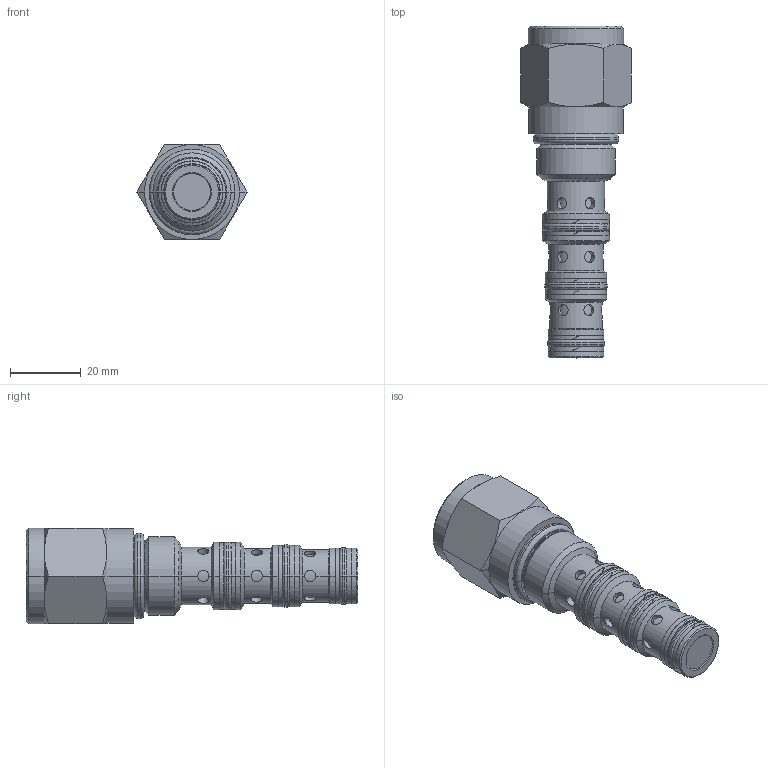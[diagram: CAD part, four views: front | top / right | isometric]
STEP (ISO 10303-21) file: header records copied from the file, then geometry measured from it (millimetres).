
FILE_DESCRIPTION((''),'2;1');
FILE_NAME('DCPS-10-A-F-OUT','2015-12-21T',('torrese'),(''),'PRO/ENGINEER BY PARAMETRIC TECHNOLOGY CORPORATION, 2015070','PRO/ENGINEER BY PARAMETRIC TECHNOLOGY CORPORATION, 2015070','');
FILE_SCHEMA(('CONFIG_CONTROL_DESIGN','GEOMETRIC_VALIDATION_PROPERTIES_MIM'));
Length unit declared in the file: inch
Products named in the file (1): DCPS-10-A-F-OUT
Bounding box: 31.15 x 93.7 x 26.97 mm (x, y, z)
Volume: 33791.3 mm3; surface area: 8332.8 mm2
Topology: 1 solids, 1 shells, 193 faces, 432 edges, 263 vertices
Faces by surface type: cylinder 110, plane 36, cone 27, torus 20
Entity records: 14214 total; most frequent: CARTESIAN_POINT 7780, ORIENTED_EDGE 864, DIRECTION 856, PRESENTATION_STYLE_ASSIGNMENT 545, STYLED_ITEM 439, CURVE_STYLE 432, EDGE_CURVE 432, AXIS2_PLACEMENT_3D 357
